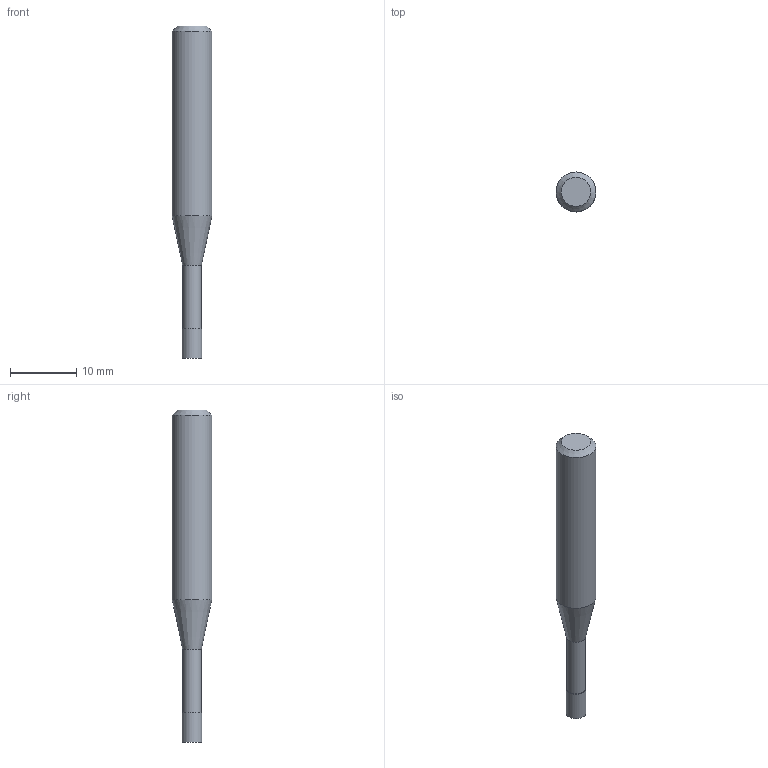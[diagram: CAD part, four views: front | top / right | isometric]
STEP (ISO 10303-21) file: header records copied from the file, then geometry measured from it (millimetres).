
FILE_DESCRIPTION((''),'2;1');
FILE_NAME('C:\Users\nsx150\AppData\Local\Temp\Mastercam 2021\17T8Q8S9EB\TEMP.step','2021-04-21T14:28:24',(''),(''),'STEP Write','Mastercam 2021 ... CNC Software, Inc.','');
FILE_SCHEMA(('AUTOMOTIVE_DESIGN'));
Length unit declared in the file: millimetre
Products named in the file (1): None
Bounding box: 6 x 6 x 50 mm (x, y, z)
Volume: 1014.1 mm3; surface area: 810.8 mm2
Topology: 2 solids, 2 shells, 9 faces, 12 edges, 7 vertices
Faces by surface type: plane 4, cylinder 3, cone 2
Full cylindrical faces by diameter (mm): 2.85 x1, 3 x1, 6 x1
Entity records: 211 total; most frequent: DIRECTION 36, CARTESIAN_POINT 25, AXIS2_PLACEMENT_3D 18, ORIENTED_EDGE 14, EDGE_LOOP 14, STYLED_ITEM 12, ADVANCED_FACE 9, FACE_BOUND 8
